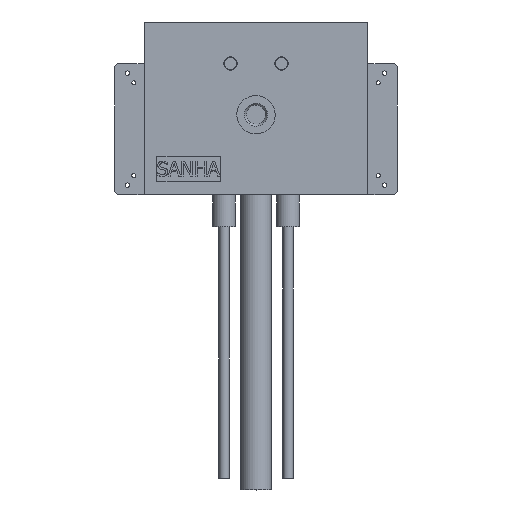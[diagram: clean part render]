
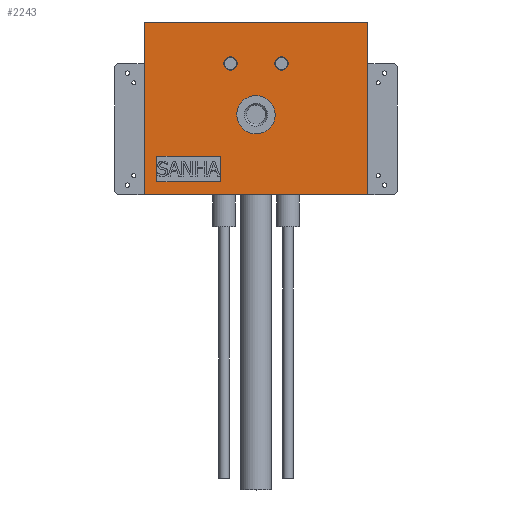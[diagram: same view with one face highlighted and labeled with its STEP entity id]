
A CAD part, top view. The second image highlights one B-rep face of the part: STEP entity #2243.
In plain terms, the highlighted planar face has unit normal (0, 0, 1) as drawn and (1, 0, 0) by its records, which use the part's own axes.
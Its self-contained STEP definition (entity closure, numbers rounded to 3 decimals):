
#165=FACE_BOUND('',#515,.T.);
#166=FACE_BOUND('',#516,.T.);
#167=FACE_BOUND('',#517,.T.);
#168=FACE_BOUND('',#518,.T.);
#213=CIRCLE('',#2509,10.5);
#216=CIRCLE('',#2514,10.5);
#221=CIRCLE('',#2525,27.5);
#354=FACE_OUTER_BOUND('',#514,.T.);
#514=EDGE_LOOP('',(#1942,#1943,#1944,#1945));
#515=EDGE_LOOP('',(#1946,#1947,#1948,#1949));
#516=EDGE_LOOP('',(#1950));
#517=EDGE_LOOP('',(#1951));
#518=EDGE_LOOP('',(#1952));
#588=LINE('',#3182,#790);
#593=LINE('',#3191,#795);
#596=LINE('',#3203,#798);
#762=LINE('',#3816,#964);
#765=LINE('',#3821,#967);
#767=LINE('',#3825,#969);
#769=LINE('',#3828,#971);
#770=LINE('',#3885,#972);
#790=VECTOR('',#2614,10.);
#795=VECTOR('',#2621,10.);
#798=VECTOR('',#2632,10.);
#964=VECTOR('',#2912,10.);
#967=VECTOR('',#2917,10.);
#969=VECTOR('',#2921,10.);
#971=VECTOR('',#2925,10.);
#972=VECTOR('',#3004,10.);
#991=VERTEX_POINT('',#3178);
#993=VERTEX_POINT('',#3181);
#996=VERTEX_POINT('',#3189);
#1001=VERTEX_POINT('',#3201);
#1134=VERTEX_POINT('',#3814);
#1135=VERTEX_POINT('',#3815);
#1136=VERTEX_POINT('',#3820);
#1137=VERTEX_POINT('',#3824);
#1145=VERTEX_POINT('',#3853);
#1148=VERTEX_POINT('',#3861);
#1153=VERTEX_POINT('',#3877);
#1198=EDGE_CURVE('',#993,#991,#588,.T.);
#1203=EDGE_CURVE('',#991,#996,#593,.T.);
#1209=EDGE_CURVE('',#996,#1001,#596,.T.);
#1407=EDGE_CURVE('',#1134,#1135,#762,.T.);
#1410=EDGE_CURVE('',#1136,#1134,#765,.T.);
#1412=EDGE_CURVE('',#1137,#1136,#767,.T.);
#1414=EDGE_CURVE('',#1135,#1137,#769,.T.);
#1422=EDGE_CURVE('',#1145,#1145,#213,.T.);
#1425=EDGE_CURVE('',#1148,#1148,#216,.T.);
#1430=EDGE_CURVE('',#1153,#1153,#221,.T.);
#1432=EDGE_CURVE('',#1001,#993,#770,.T.);
#1942=ORIENTED_EDGE('',*,*,#1198,.T.);
#1943=ORIENTED_EDGE('',*,*,#1203,.T.);
#1944=ORIENTED_EDGE('',*,*,#1209,.T.);
#1945=ORIENTED_EDGE('',*,*,#1432,.T.);
#1946=ORIENTED_EDGE('',*,*,#1407,.T.);
#1947=ORIENTED_EDGE('',*,*,#1414,.T.);
#1948=ORIENTED_EDGE('',*,*,#1412,.T.);
#1949=ORIENTED_EDGE('',*,*,#1410,.T.);
#1950=ORIENTED_EDGE('',*,*,#1422,.T.);
#1951=ORIENTED_EDGE('',*,*,#1425,.T.);
#1952=ORIENTED_EDGE('',*,*,#1430,.T.);
#2124=PLANE('',#2531);
#2243=ADVANCED_FACE('',(#354,#165,#166,#167,#168),#2124,.T.);
#2509=AXIS2_PLACEMENT_3D('',#3854,#2960,#2961);
#2514=AXIS2_PLACEMENT_3D('',#3862,#2970,#2971);
#2525=AXIS2_PLACEMENT_3D('',#3878,#2992,#2993);
#2531=AXIS2_PLACEMENT_3D('',#3886,#3005,#3006);
#2614=DIRECTION('',(0.,-1.,0.));
#2621=DIRECTION('',(0.,0.,-1.));
#2632=DIRECTION('',(0.,1.,0.));
#2912=DIRECTION('',(0.,1.,0.));
#2917=DIRECTION('',(0.,0.,1.));
#2921=DIRECTION('',(0.,-1.,0.));
#2925=DIRECTION('',(0.,0.,-1.));
#2960=DIRECTION('center_axis',(-1.,0.,0.));
#2961=DIRECTION('ref_axis',(0.,0.,1.));
#2970=DIRECTION('center_axis',(-1.,0.,0.));
#2971=DIRECTION('ref_axis',(0.,0.,1.));
#2992=DIRECTION('center_axis',(-1.,0.,0.));
#2993=DIRECTION('ref_axis',(0.,0.,1.));
#3004=DIRECTION('',(0.,0.,1.));
#3005=DIRECTION('center_axis',(1.,0.,0.));
#3006=DIRECTION('ref_axis',(0.,0.,-1.));
#3178=CARTESIAN_POINT('',(70.,0.,0.));
#3181=CARTESIAN_POINT('',(70.,270.,0.));
#3182=CARTESIAN_POINT('',(70.,0.,0.));
#3189=CARTESIAN_POINT('',(70.,0.,-350.));
#3191=CARTESIAN_POINT('',(70.,0.,-350.));
#3201=CARTESIAN_POINT('',(70.,270.,-350.));
#3203=CARTESIAN_POINT('',(70.,270.,-350.));
#3814=CARTESIAN_POINT('',(70.,20.,-20.));
#3815=CARTESIAN_POINT('',(70.,60.,-20.));
#3816=CARTESIAN_POINT('',(70.,77.5,-20.));
#3820=CARTESIAN_POINT('',(70.,20.,-120.));
#3821=CARTESIAN_POINT('',(70.,20.,-147.5));
#3824=CARTESIAN_POINT('',(70.,60.,-120.));
#3825=CARTESIAN_POINT('',(70.,97.5,-120.));
#3828=CARTESIAN_POINT('',(70.,60.,-97.5));
#3853=CARTESIAN_POINT('',(70.,205.,-145.5));
#3854=CARTESIAN_POINT('Origin',(70.,205.,-135.));
#3861=CARTESIAN_POINT('',(70.,205.,-225.5));
#3862=CARTESIAN_POINT('Origin',(70.,205.,-215.));
#3877=CARTESIAN_POINT('',(70.,125.,-202.5));
#3878=CARTESIAN_POINT('Origin',(70.,125.,-175.));
#3885=CARTESIAN_POINT('',(70.,270.,0.));
#3886=CARTESIAN_POINT('Origin',(70.,135.,-175.));
